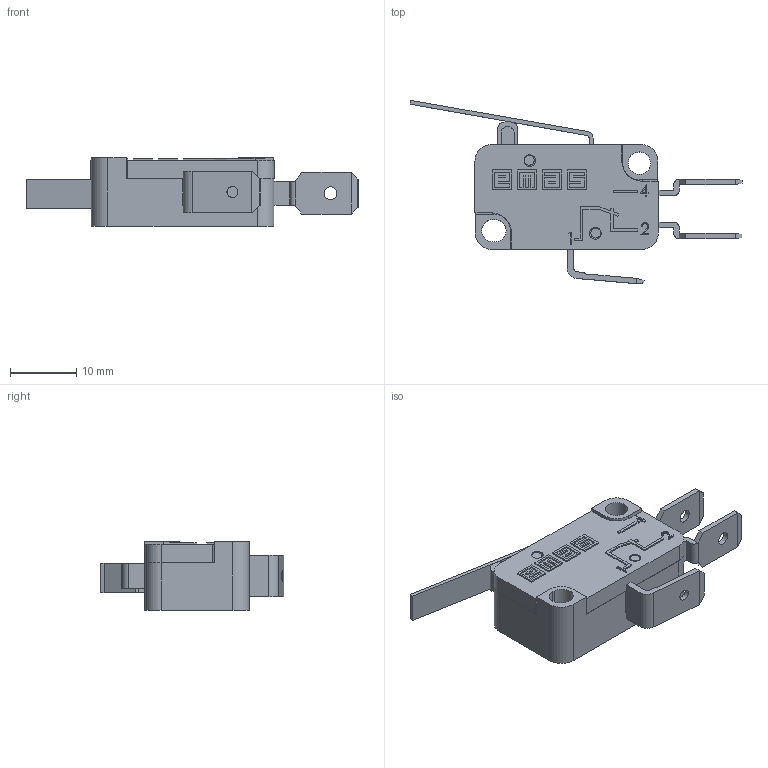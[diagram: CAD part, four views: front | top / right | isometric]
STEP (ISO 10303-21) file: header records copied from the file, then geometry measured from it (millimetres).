
FILE_DESCRIPTION((''),'2; 1');
FILE_NAME('','2026-03-27T16:18:02',(''),(''),'CST STEP Exporter V1.0','Unknown','');
FILE_SCHEMA(('CONFIG_CONTROL_DESIGN'));
Length unit declared in the file: metre
Assembly tree (9 placements, depth 2):
  (unnamed)
    (unnamed)
    (unnamed)
    (unnamed)
    (unnamed)
    (unnamed)
    (unnamed)
    (unnamed)
    (unnamed)
    (unnamed)
Bounding box: 50.17 x 27.7 x 10.4 mm (x, y, z)
Surface area: 7190.3 mm2 (no closed solid volume)
Topology: 0 solids, 9 shells, 284 faces, 1019 edges, 757 vertices
Faces by surface type: plane 241, cylinder 37, extrusion 6
Full cylindrical faces by diameter (mm): 1.5 x2, 1.7 x1, 1.75 x2, 1.95 x2, 3.4 x1
Entity records: 13296 total; most frequent: CARTESIAN_POINT 2228, DIRECTION 1692, ORIENTED_EDGE 1685, EDGE_CURVE 1008, VECTOR 844, LINE 838, VERTEX_POINT 754, AXIS2_PLACEMENT_3D 424
